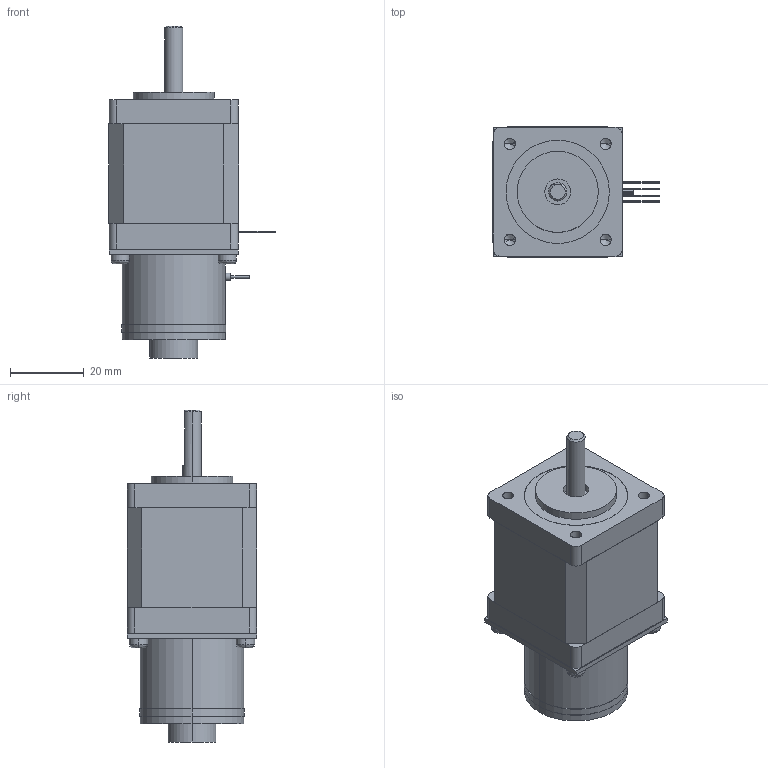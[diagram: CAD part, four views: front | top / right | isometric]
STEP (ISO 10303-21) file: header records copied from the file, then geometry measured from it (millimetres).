
FILE_DESCRIPTION (( 'STEP AP203' ), '1' );
FILE_NAME ('UB35D24-D10-441.STEP', '2019-10-25T01:31:11', ( 'China' ), ( 'Home' ), 'SwSTEP 2.0', 'SolidWorks 2016', '' );
FILE_SCHEMA (( 'CONFIG_CONTROL_DESIGN' ));
Length unit declared in the file: millimetre
Products named in the file (1): UB35D24-D10-441
Bounding box: 45.1 x 35.2 x 90 mm (x, y, z)
Volume: 66369.5 mm3; surface area: 16839.1 mm2
Topology: 10 solids, 10 shells, 415 faces, 1087 edges, 709 vertices
Faces by surface type: plane 276, cylinder 80, cone 51, bspline 8
Entity records: 12974 total; most frequent: CARTESIAN_POINT 2795, ORIENTED_EDGE 2158, DIRECTION 1996, EDGE_CURVE 1079, VERTEX_POINT 709, VECTOR 694, LINE 694, AXIS2_PLACEMENT_3D 651
